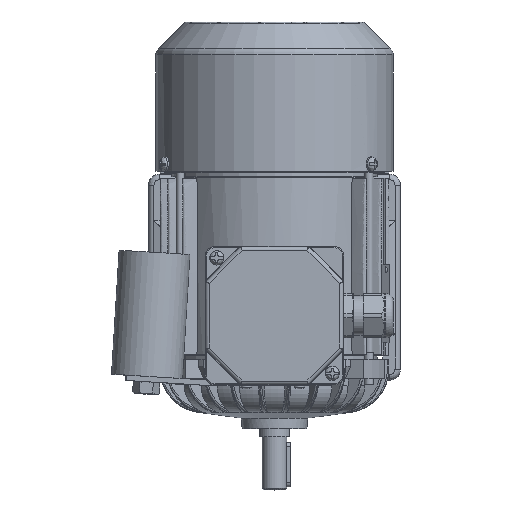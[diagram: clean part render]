
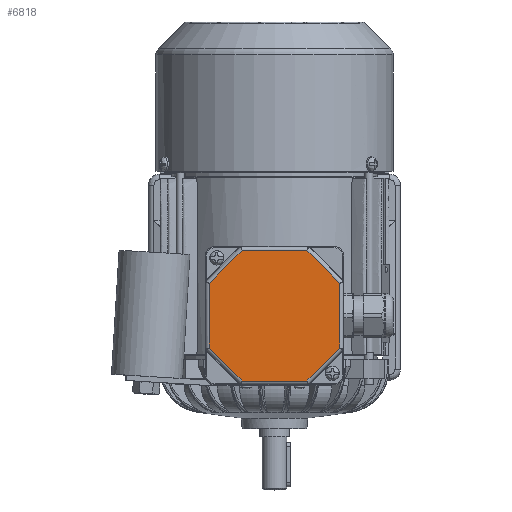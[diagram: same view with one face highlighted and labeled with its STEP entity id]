
A CAD part, top view. The second image highlights one B-rep face of the part: STEP entity #6818.
In plain terms, the highlighted planar face has unit normal (0, 0, 1).
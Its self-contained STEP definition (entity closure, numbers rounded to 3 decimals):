
#6818 = ADVANCED_FACE( '', ( #14700 ), #14701, .T. );
#14700 = FACE_OUTER_BOUND( '', #56423, .T. );
#14701 = PLANE( '', #56424 );
#56423 = EDGE_LOOP( '', ( #100274, #100275, #100276, #100277, #100278, #100279, #100280, #100281 ) );
#56424 = AXIS2_PLACEMENT_3D( '', #100282, #100283, #100284 );
#100274 = ORIENTED_EDGE( '', *, *, #119416, .T. );
#100275 = ORIENTED_EDGE( '', *, *, #119417, .T. );
#100276 = ORIENTED_EDGE( '', *, *, #119418, .T. );
#100277 = ORIENTED_EDGE( '', *, *, #116770, .T. );
#100278 = ORIENTED_EDGE( '', *, *, #116483, .T. );
#100279 = ORIENTED_EDGE( '', *, *, #116748, .T. );
#100280 = ORIENTED_EDGE( '', *, *, #119419, .T. );
#100281 = ORIENTED_EDGE( '', *, *, #119420, .T. );
#100282 = CARTESIAN_POINT( '', ( -39., 39., 12. ) );
#100283 = DIRECTION( '', ( 0., 0., 1. ) );
#100284 = DIRECTION( '', ( 1., 0., 0. ) );
#116483 = EDGE_CURVE( '', #124640, #130104, #130105, .F. );
#116748 = EDGE_CURVE( '', #130104, #130499, #130500, .T. );
#116770 = EDGE_CURVE( '', #130532, #124640, #130533, .T. );
#119416 = EDGE_CURVE( '', #134298, #134299, #134300, .F. );
#119417 = EDGE_CURVE( '', #134299, #126089, #134301, .T. );
#119418 = EDGE_CURVE( '', #126089, #130532, #134302, .F. );
#119419 = EDGE_CURVE( '', #130499, #134046, #134303, .F. );
#119420 = EDGE_CURVE( '', #134046, #134298, #134304, .T. );
#124640 = VERTEX_POINT( '', #146922 );
#126089 = VERTEX_POINT( '', #153014 );
#130104 = VERTEX_POINT( '', #169136 );
#130105 = LINE( '', #169137, #169138 );
#130499 = VERTEX_POINT( '', #170975 );
#130500 = LINE( '', #170976, #170977 );
#130532 = VERTEX_POINT( '', #171026 );
#130533 = LINE( '', #171027, #171028 );
#134046 = VERTEX_POINT( '', #184701 );
#134298 = VERTEX_POINT( '', #185545 );
#134299 = VERTEX_POINT( '', #185546 );
#134300 = LINE( '', #185547, #185548 );
#134301 = LINE( '', #185549, #185550 );
#134302 = LINE( '', #185551, #185552 );
#134303 = LINE( '', #185553, #185554 );
#134304 = LINE( '', #185555, #185556 );
#146922 = CARTESIAN_POINT( '', ( -36.825, 18.255, 12. ) );
#153014 = CARTESIAN_POINT( '', ( 18.255, 36.825, 12. ) );
#169136 = CARTESIAN_POINT( '', ( -36.825, -18.255, 12. ) );
#169137 = CARTESIAN_POINT( '', ( -36.825, -19.069, 12. ) );
#169138 = VECTOR( '', #205105, 1000. );
#170975 = CARTESIAN_POINT( '', ( -18.255, -36.825, 12. ) );
#170976 = CARTESIAN_POINT( '', ( -17.679, -37.401, 12. ) );
#170977 = VECTOR( '', #205386, 1000. );
#171026 = CARTESIAN_POINT( '', ( -18.255, 36.825, 12. ) );
#171027 = CARTESIAN_POINT( '', ( -37.401, 17.679, 12. ) );
#171028 = VECTOR( '', #205416, 1000. );
#184701 = CARTESIAN_POINT( '', ( 18.255, -36.825, 12. ) );
#185545 = CARTESIAN_POINT( '', ( 36.825, -18.255, 12. ) );
#185546 = CARTESIAN_POINT( '', ( 36.825, 18.255, 12. ) );
#185547 = CARTESIAN_POINT( '', ( 36.825, 19.069, 12. ) );
#185548 = VECTOR( '', #208423, 1000. );
#185549 = CARTESIAN_POINT( '', ( 17.679, 37.401, 12. ) );
#185550 = VECTOR( '', #208424, 1000. );
#185551 = CARTESIAN_POINT( '', ( -19.069, 36.825, 12. ) );
#185552 = VECTOR( '', #208425, 1000. );
#185553 = CARTESIAN_POINT( '', ( 19.069, -36.825, 12. ) );
#185554 = VECTOR( '', #208426, 1000. );
#185555 = CARTESIAN_POINT( '', ( 37.401, -17.679, 12. ) );
#185556 = VECTOR( '', #208427, 1000. );
#205105 = DIRECTION( '', ( 0., 1., 0. ) );
#205386 = DIRECTION( '', ( 0.707, -0.707, 0. ) );
#205416 = DIRECTION( '', ( -0.707, -0.707, 0. ) );
#208423 = DIRECTION( '', ( 0., -1., 0. ) );
#208424 = DIRECTION( '', ( -0.707, 0.707, 0. ) );
#208425 = DIRECTION( '', ( 1., 0., 0. ) );
#208426 = DIRECTION( '', ( -1., 0., 0. ) );
#208427 = DIRECTION( '', ( 0.707, 0.707, 0. ) );
